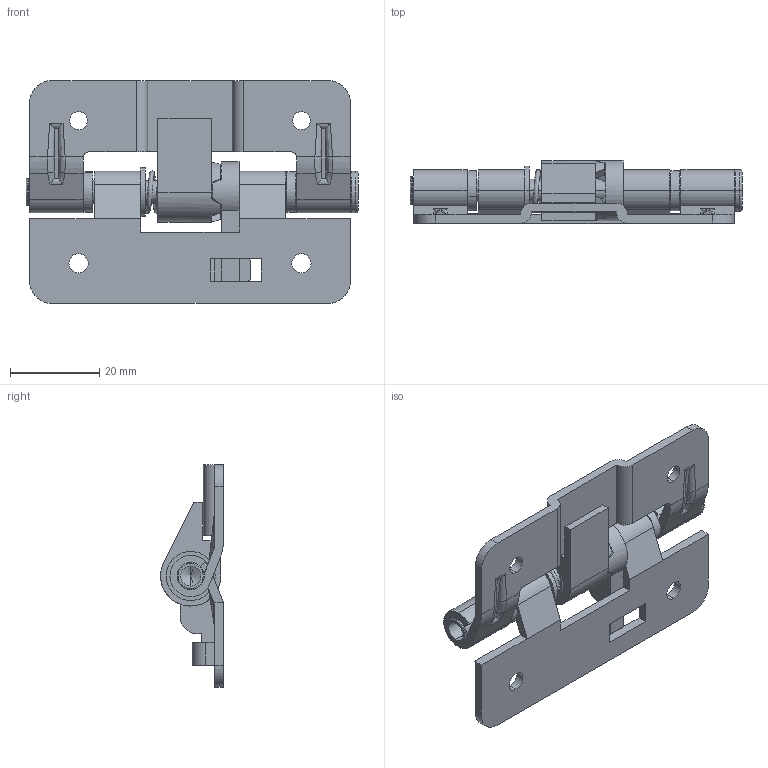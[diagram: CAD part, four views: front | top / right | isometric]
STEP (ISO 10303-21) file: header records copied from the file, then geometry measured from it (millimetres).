
FILE_DESCRIPTION (( 'STEP AP214' ), '1' );
FILE_NAME ('XG11-078.STEP', '2023-08-18T02:52:28', ( '' ), ( '' ), 'SwSTEP 2.0', 'SolidWorks 2019', '' );
FILE_SCHEMA (( 'AUTOMOTIVE_DESIGN' ));
Length unit declared in the file: millimetre
Products named in the file (3): XG11-078; 翋极; 饜璃
Assembly tree (3 placements, depth 2):
  XG11-078
    翋极
    饜璃  x2
Bounding box: 74.5 x 14.1 x 50 mm (x, y, z)
Volume: 11848.4 mm3; surface area: 13537.8 mm2
Topology: 8 solids, 8 shells, 271 faces, 727 edges, 471 vertices
Faces by surface type: cylinder 122, plane 113, bspline 30, torus 4, cone 2
Entity records: 11820 total; most frequent: CARTESIAN_POINT 5384, ORIENTED_EDGE 1426, DIRECTION 1215, EDGE_CURVE 713, VERTEX_POINT 463, AXIS2_PLACEMENT_3D 438, VECTOR 339, LINE 339
